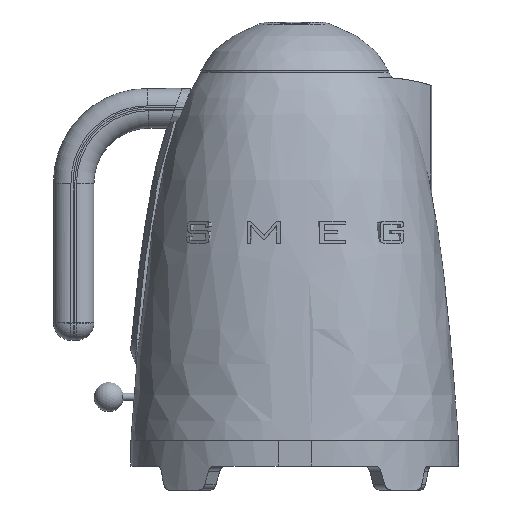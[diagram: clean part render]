
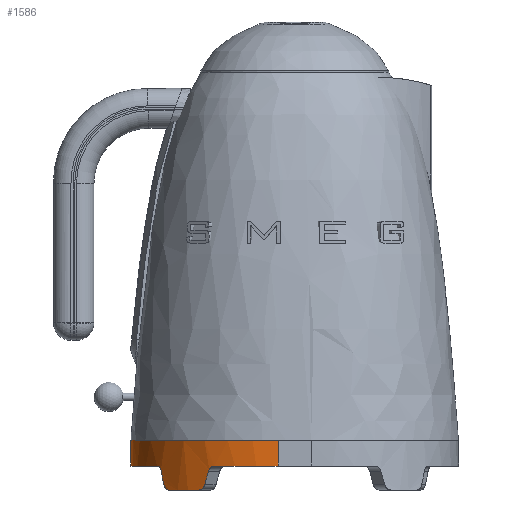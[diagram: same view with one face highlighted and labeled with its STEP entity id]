
A CAD part, front view. The second image highlights one B-rep face of the part: STEP entity #1586.
In plain terms, the highlighted cylindrical face has radius 80 mm (diameter 160 mm), a partial arc.
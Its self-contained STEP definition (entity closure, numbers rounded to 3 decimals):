
#89=ELLIPSE('',#5117,272.029,80.);
#90=ELLIPSE('',#5119,272.029,80.);
#307=CYLINDRICAL_SURFACE('',#5121,80.);
#392=CIRCLE('',#5104,80.);
#394=CIRCLE('',#5106,80.);
#404=CIRCLE('',#5118,80.);
#405=CIRCLE('',#5120,80.);
#675=LINE('',#7864,#951);
#676=LINE('',#7868,#952);
#951=VECTOR('',#5642,1.);
#952=VECTOR('',#5645,1.);
#1210=B_SPLINE_CURVE_WITH_KNOTS('',3,(#7819,#7820,#7821,#7822,#7823,#7824,
#7825,#7826,#7827,#7828,#7829,#7830,#7831),.UNSPECIFIED.,.F.,.F.,(4,3,3,
3,4),(0.,0.265,0.53,0.795,1.),
 .UNSPECIFIED.);
#1211=B_SPLINE_CURVE_WITH_KNOTS('',3,(#7835,#7836,#7837,#7838,#7839,#7840,
#7841,#7842,#7843,#7844,#7845,#7846,#7847),.UNSPECIFIED.,.F.,.F.,(4,3,3,
3,4),(0.,0.265,0.53,0.796,1.),
 .UNSPECIFIED.);
#1212=B_SPLINE_CURVE_WITH_KNOTS('',3,(#7851,#7852,#7853,#7854,#7855,#7856,
#7857,#7858,#7859,#7860,#7861,#7862,#7863),.UNSPECIFIED.,.F.,.F.,(4,3,3,
3,4),(0.,0.265,0.53,0.795,1.),
 .UNSPECIFIED.);
#1213=B_SPLINE_CURVE_WITH_KNOTS('',3,(#7869,#7870,#7871,#7872,#7873,#7874,
#7875,#7876,#7877,#7878,#7879,#7880,#7881),.UNSPECIFIED.,.F.,.F.,(4,3,3,
3,4),(0.,0.265,0.531,0.796,1.),
 .UNSPECIFIED.);
#1586=ADVANCED_FACE('',(#1883),#307,.T.);
#1883=FACE_OUTER_BOUND('',#2170,.T.);
#2170=EDGE_LOOP('',(#2669,#2670,#2671,#2672,#2673,#2674,#2675,#2676,#2677,
#2678,#2679,#2680));
#2669=ORIENTED_EDGE('',*,*,#4436,.T.);
#2670=ORIENTED_EDGE('',*,*,#4437,.T.);
#2671=ORIENTED_EDGE('',*,*,#4438,.F.);
#2672=ORIENTED_EDGE('',*,*,#4439,.T.);
#2673=ORIENTED_EDGE('',*,*,#4440,.T.);
#2674=ORIENTED_EDGE('',*,*,#4441,.T.);
#2675=ORIENTED_EDGE('',*,*,#4412,.F.);
#2676=ORIENTED_EDGE('',*,*,#4442,.T.);
#2677=ORIENTED_EDGE('',*,*,#4443,.T.);
#2678=ORIENTED_EDGE('',*,*,#4444,.F.);
#2679=ORIENTED_EDGE('',*,*,#4416,.F.);
#2680=ORIENTED_EDGE('',*,*,#4445,.T.);
#3899=VERTEX_POINT('',#7768);
#3900=VERTEX_POINT('',#7769);
#3903=VERTEX_POINT('',#7775);
#3904=VERTEX_POINT('',#7777);
#3923=VERTEX_POINT('',#7817);
#3924=VERTEX_POINT('',#7818);
#3925=VERTEX_POINT('',#7832);
#3926=VERTEX_POINT('',#7834);
#3927=VERTEX_POINT('',#7848);
#3928=VERTEX_POINT('',#7850);
#3929=VERTEX_POINT('',#7865);
#3930=VERTEX_POINT('',#7867);
#4412=EDGE_CURVE('',#3899,#3900,#392,.T.);
#4416=EDGE_CURVE('',#3903,#3904,#394,.T.);
#4436=EDGE_CURVE('',#3923,#3924,#89,.T.);
#4437=EDGE_CURVE('',#3924,#3925,#1210,.T.);
#4438=EDGE_CURVE('',#3926,#3925,#404,.T.);
#4439=EDGE_CURVE('',#3926,#3927,#1211,.T.);
#4440=EDGE_CURVE('',#3927,#3928,#90,.T.);
#4441=EDGE_CURVE('',#3928,#3900,#1212,.T.);
#4442=EDGE_CURVE('',#3899,#3929,#675,.T.);
#4443=EDGE_CURVE('',#3929,#3930,#405,.T.);
#4444=EDGE_CURVE('',#3904,#3930,#676,.T.);
#4445=EDGE_CURVE('',#3903,#3923,#1213,.T.);
#5104=AXIS2_PLACEMENT_3D('',#7767,#5598,#5599);
#5106=AXIS2_PLACEMENT_3D('',#7776,#5604,#5605);
#5117=AXIS2_PLACEMENT_3D('',#7816,#5636,#5637);
#5118=AXIS2_PLACEMENT_3D('',#7833,#5638,#5639);
#5119=AXIS2_PLACEMENT_3D('',#7849,#5640,#5641);
#5120=AXIS2_PLACEMENT_3D('',#7866,#5643,#5644);
#5121=AXIS2_PLACEMENT_3D('',#7882,#5646,#5647);
#5598=DIRECTION('',(0.,0.,-1.));
#5599=DIRECTION('',(1.,0.,0.));
#5604=DIRECTION('',(0.,0.,-1.));
#5605=DIRECTION('',(1.,0.,0.));
#5636=DIRECTION('',(0.588,-0.753,0.294));
#5637=DIRECTION('',(-0.181,0.232,0.956));
#5638=DIRECTION('',(0.,0.,-1.));
#5639=DIRECTION('',(0.,-1.,0.));
#5640=DIRECTION('',(-0.828,0.478,0.294));
#5641=DIRECTION('',(0.255,-0.147,0.956));
#5642=DIRECTION('',(0.,0.,1.));
#5643=DIRECTION('',(0.,0.,-1.));
#5644=DIRECTION('',(1.,0.,0.));
#5645=DIRECTION('',(0.,0.,1.));
#5646=DIRECTION('',(0.,0.,1.));
#5647=DIRECTION('',(1.,0.,0.));
#7767=CARTESIAN_POINT('',(180.71,-71.815,-14.));
#7768=CARTESIAN_POINT('',(180.71,-151.815,-14.));
#7769=CARTESIAN_POINT('',(146.243,-144.01,-14.));
#7775=CARTESIAN_POINT('',(114.995,-117.44,-14.));
#7776=CARTESIAN_POINT('',(180.71,-71.815,-14.));
#7777=CARTESIAN_POINT('',(100.71,-71.815,-14.));
#7816=CARTESIAN_POINT('',(180.71,-71.815,-19.041));
#7817=CARTESIAN_POINT('',(117.251,-120.529,-16.824));
#7818=CARTESIAN_POINT('',(118.654,-122.304,-24.176));
#7819=CARTESIAN_POINT('',(118.654,-122.304,-24.176));
#7820=CARTESIAN_POINT('',(118.737,-122.406,-24.604));
#7821=CARTESIAN_POINT('',(118.868,-122.567,-25.015));
#7822=CARTESIAN_POINT('',(119.037,-122.771,-25.375));
#7823=CARTESIAN_POINT('',(119.207,-122.976,-25.735));
#7824=CARTESIAN_POINT('',(119.419,-123.231,-26.054));
#7825=CARTESIAN_POINT('',(119.658,-123.513,-26.306));
#7826=CARTESIAN_POINT('',(119.897,-123.796,-26.558));
#7827=CARTESIAN_POINT('',(120.17,-124.113,-26.749));
#7828=CARTESIAN_POINT('',(120.454,-124.439,-26.864));
#7829=CARTESIAN_POINT('',(120.675,-124.692,-26.954));
#7830=CARTESIAN_POINT('',(120.907,-124.955,-27.));
#7831=CARTESIAN_POINT('',(121.139,-125.214,-27.));
#7832=CARTESIAN_POINT('',(121.139,-125.214,-27.));
#7833=CARTESIAN_POINT('',(180.71,-71.815,-27.));
#7834=CARTESIAN_POINT('',(137.582,-139.195,-27.));
#7835=CARTESIAN_POINT('',(137.582,-139.195,-27.));
#7836=CARTESIAN_POINT('',(137.959,-139.436,-27.));
#7837=CARTESIAN_POINT('',(138.343,-139.677,-26.923));
#7838=CARTESIAN_POINT('',(138.703,-139.899,-26.775));
#7839=CARTESIAN_POINT('',(139.062,-140.121,-26.627));
#7840=CARTESIAN_POINT('',(139.407,-140.329,-26.404));
#7841=CARTESIAN_POINT('',(139.707,-140.509,-26.125));
#7842=CARTESIAN_POINT('',(140.007,-140.688,-25.845));
#7843=CARTESIAN_POINT('',(140.271,-140.843,-25.502));
#7844=CARTESIAN_POINT('',(140.476,-140.962,-25.123));
#7845=CARTESIAN_POINT('',(140.635,-141.055,-24.829));
#7846=CARTESIAN_POINT('',(140.763,-141.128,-24.508));
#7847=CARTESIAN_POINT('',(140.851,-141.179,-24.176));
#7848=CARTESIAN_POINT('',(140.851,-141.179,-24.176));
#7849=CARTESIAN_POINT('',(180.71,-71.815,-24.706));
#7850=CARTESIAN_POINT('',(142.829,-142.278,-16.824));
#7851=CARTESIAN_POINT('',(142.829,-142.278,-16.824));
#7852=CARTESIAN_POINT('',(142.945,-142.341,-16.396));
#7853=CARTESIAN_POINT('',(143.127,-142.439,-15.985));
#7854=CARTESIAN_POINT('',(143.362,-142.563,-15.625));
#7855=CARTESIAN_POINT('',(143.597,-142.687,-15.265));
#7856=CARTESIAN_POINT('',(143.891,-142.84,-14.946));
#7857=CARTESIAN_POINT('',(144.22,-143.009,-14.694));
#7858=CARTESIAN_POINT('',(144.55,-143.178,-14.443));
#7859=CARTESIAN_POINT('',(144.923,-143.366,-14.251));
#7860=CARTESIAN_POINT('',(145.311,-143.557,-14.136));
#7861=CARTESIAN_POINT('',(145.613,-143.706,-14.046));
#7862=CARTESIAN_POINT('',(145.929,-143.86,-14.));
#7863=CARTESIAN_POINT('',(146.243,-144.01,-14.));
#7864=CARTESIAN_POINT('',(180.71,-151.815,-14.));
#7865=CARTESIAN_POINT('',(180.71,-151.815,0.));
#7866=CARTESIAN_POINT('',(180.71,-71.815,0.));
#7867=CARTESIAN_POINT('',(100.71,-71.815,0.));
#7868=CARTESIAN_POINT('',(100.71,-71.815,-14.));
#7869=CARTESIAN_POINT('',(114.995,-117.44,-14.));
#7870=CARTESIAN_POINT('',(115.251,-117.808,-14.));
#7871=CARTESIAN_POINT('',(115.513,-118.178,-14.077));
#7872=CARTESIAN_POINT('',(115.76,-118.521,-14.225));
#7873=CARTESIAN_POINT('',(116.006,-118.865,-14.373));
#7874=CARTESIAN_POINT('',(116.244,-119.19,-14.596));
#7875=CARTESIAN_POINT('',(116.453,-119.471,-14.876));
#7876=CARTESIAN_POINT('',(116.661,-119.752,-15.155));
#7877=CARTESIAN_POINT('',(116.845,-119.996,-15.499));
#7878=CARTESIAN_POINT('',(116.989,-120.185,-15.878));
#7879=CARTESIAN_POINT('',(117.1,-120.332,-16.172));
#7880=CARTESIAN_POINT('',(117.189,-120.448,-16.492));
#7881=CARTESIAN_POINT('',(117.251,-120.529,-16.824));
#7882=CARTESIAN_POINT('',(180.71,-71.815,-14.));
